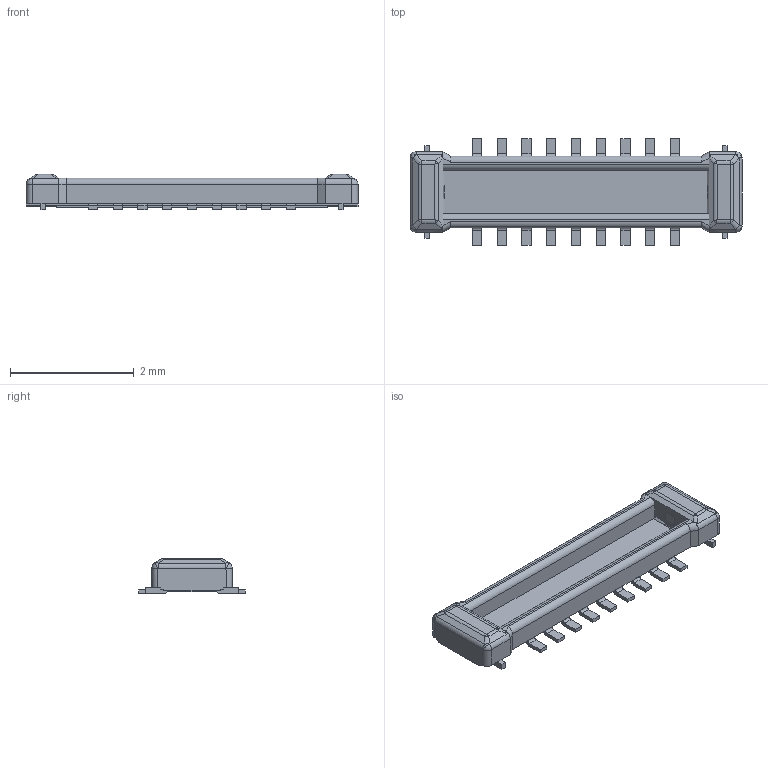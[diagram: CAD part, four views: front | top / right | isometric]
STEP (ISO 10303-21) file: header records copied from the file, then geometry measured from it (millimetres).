
FILE_DESCRIPTION(('CATIA V5 STEP Exchange'),'2;1');
FILE_NAME('C:\Users\user\Desktop\5807_STEP\10_5807_018_002_829_+.stp','2016-03-29T05:36:02+00:00',('none'),('none'),'CATIA Version 5-6 Release 2014 SP4','CATIA V5 STEP AP203','none');
FILE_SCHEMA(('CONFIG_CONTROL_DESIGN'));
Length unit declared in the file: millimetre
Products named in the file (1): Product1_AllCATPart
Bounding box: 5.36 x 1.72 x 0.57 mm (x, y, z)
Volume: 1.9 mm3; surface area: 24.8 mm2
Topology: 1 solids, 1 shells, 272 faces, 724 edges, 442 vertices
Faces by surface type: plane 186, cylinder 66, sphere 12, bspline 4, extrusion 4
Entity records: 7728 total; most frequent: CARTESIAN_POINT 1726, ORIENTED_EDGE 1424, DIRECTION 918, EDGE_CURVE 712, VECTOR 572, LINE 568, VERTEX_POINT 442, ADVANCED_FACE 272
